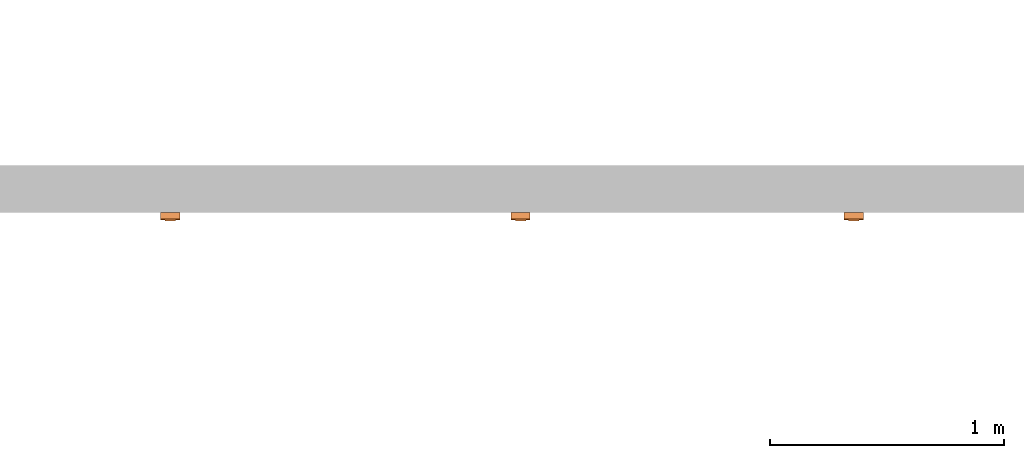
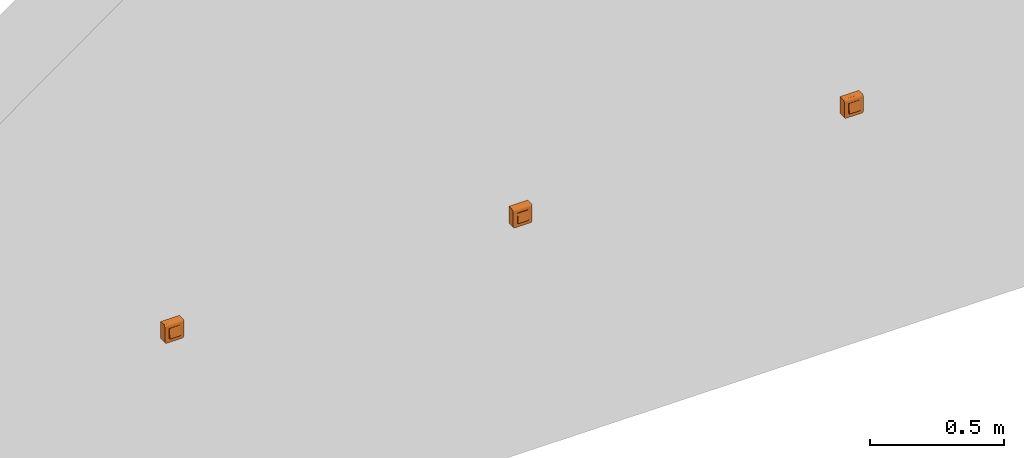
# One storey, part 132 of 197: 3 proxies.
"""IFC2X3 building model written with IfcOpenShell, lengths in metres."""

from ifc_helpers import new_model, entity, si_unit, converted_unit, direction, frame, origin, place, context, subcontext, project, spatial, faceted_brep, source, transform, mapped, material, material_list, type_object, type_shapes, element, save


model = new_model("IFC2X3")

# Units and contexts
model_context = context("Model", 3, precision=1e-05, world=origin(), true_north=direction((6.123031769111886e-17, 1.0)))
body_context = subcontext(model_context, "Body", "Model", "MODEL_VIEW")
ifc_project = project(units=[si_unit("LENGTHUNIT", "METRE"), converted_unit("PLANEANGLEUNIT", "DEGREE", entity("IfcPlaneAngleMeasure", 0.017453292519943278), si_unit("PLANEANGLEUNIT", "RADIAN"), dimensions=[0, 0, 0, 0, 0, 0, 0]), si_unit("AREAUNIT", "SQUARE_METRE")], contexts=[model_context])

# Site, building, storey
site_placement = place(None, origin())
site = spatial("IfcSite", under=ifc_project, at=site_placement, Name="Default", CompositionType="ELEMENT")
building_placement = place(site_placement, origin())
building = spatial("IfcBuilding", under=site, at=building_placement, CompositionType="ELEMENT")
storey_placement = place(building_placement, origin())
storey = spatial("IfcBuildingStorey", under=building, at=storey_placement, Name="Niveau 0", CompositionType="ELEMENT", Elevation=0.0)

# Proxies
ifc_material_1 = material(Name="BETCE-DOITGT-BLANC")
ifc_material_2 = material(Name="BETCE-CADRE-BLANC")
ifc_material_3 = material(Name="BETCE-ENJOLIVEUR-BLANC")
ifc_material_list = material_list([ifc_material_1, ifc_material_2, ifc_material_3])
building_element_proxy_type_1 = type_object("IfcBuildingElementProxyType", Name="Interrupteur double saillie:Simple allumage+Bouton poussoir", PredefinedType="NOTDEFINED", material=ifc_material_list)
shared_shape_1 = source(origin(), body_context, "Body", "Brep", [
    faceted_brep([(0.0, -0.033499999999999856, 0.022499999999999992), (0.0, -0.03799999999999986, -0.022500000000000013), (0.022499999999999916, -0.037999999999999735, -0.022500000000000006), (0.022499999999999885, -0.03349999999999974, 0.022499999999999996), (0.0, -0.02299999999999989, -0.022500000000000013), (0.0, -0.02299999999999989, 0.022499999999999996), (0.022499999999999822, -0.02299999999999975, 0.022499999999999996), (0.022499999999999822, -0.02299999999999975, -0.022500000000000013)], [[[0, 1, 2, 3]], [[4, 5, 6, 7]], [[5, 4, 1, 0]], [[6, 5, 0, 3]], [[7, 6, 3, 2]], [[4, 7, 2, 1]]]),
    faceted_brep([(0.04099999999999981, -0.023, 0.04092306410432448), (-0.04100000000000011, -0.023000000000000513, 0.04092306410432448), (-0.04100000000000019, -0.023000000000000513, -0.03299999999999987), (-0.040727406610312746, -0.023000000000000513, -0.03507055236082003), (-0.039928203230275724, -0.023000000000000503, -0.03699999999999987), (-0.038656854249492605, -0.0230000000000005, -0.038656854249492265), (-0.037000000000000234, -0.023000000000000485, -0.03992820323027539), (-0.0350705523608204, -0.023000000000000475, -0.04072740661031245), (-0.03300000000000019, -0.02300000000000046, -0.040999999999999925), (0.032999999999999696, -0.02300000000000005, -0.040999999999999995), (0.03507055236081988, -0.023000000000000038, -0.04072740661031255), (0.03699999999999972, -0.023000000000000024, -0.03992820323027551), (0.0386568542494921, -0.023000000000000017, -0.0386568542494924), (0.03992820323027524, -0.023000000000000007, -0.037000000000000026), (0.040727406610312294, -0.023000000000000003, -0.035070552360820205), (0.04099999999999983, -0.023, -0.032999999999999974), (-0.041000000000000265, 0.0, -0.03299999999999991), (-0.04100000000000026, 0.0, 0.04092306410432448), (0.04099999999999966, 0.0, 0.04092306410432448), (0.04099999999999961, 0.0, -0.03299999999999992), (0.04072740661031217, 0.0, -0.0350705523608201), (0.03992820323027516, 0.0, -0.036999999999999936), (0.038656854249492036, 0.0, -0.038656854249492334), (0.03699999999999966, 0.0, -0.039928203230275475), (0.03507055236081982, 0.0, -0.040727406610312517), (0.032999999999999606, 0.0, -0.04099999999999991), (-0.033000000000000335, 0.0, -0.040999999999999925), (-0.035070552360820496, 0.0, -0.04072740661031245), (-0.03700000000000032, 0.0, -0.039928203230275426), (-0.0386568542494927, 0.0, -0.0386568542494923), (-0.03992820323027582, 0.0, -0.036999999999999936), (-0.04072740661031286, 0.0, -0.035070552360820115)], [[[0, 1, 2, 3, 4, 5, 6, 7, 8, 9, 10, 11, 12, 13, 14, 15]], [[16, 17, 18, 19, 20, 21, 22, 23, 24, 25, 26, 27, 28, 29, 30, 31]], [[2, 1, 17, 16]], [[9, 8, 26, 25]], [[0, 15, 19, 18]], [[1, 0, 18, 17]], [[26, 8, 7, 27]], [[27, 7, 6, 28]], [[28, 6, 5, 29]], [[30, 4, 3, 31]], [[31, 3, 2, 16]], [[29, 5, 4, 30]], [[20, 19, 15, 14]], [[21, 20, 14, 13]], [[22, 21, 13, 12]], [[23, 22, 12, 11]], [[24, 23, 11, 10]], [[25, 24, 10, 9]]]),
    faceted_brep([(-0.022500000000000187, -0.02299999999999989, -0.022500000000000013), (-0.022500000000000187, -0.02299999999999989, 0.022499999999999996), (0.0, -0.02299999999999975, 0.022499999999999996), (0.0, -0.02299999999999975, -0.022500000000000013), (-0.022500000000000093, -0.037999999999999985, -0.022500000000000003), (-0.02250000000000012, -0.03349999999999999, 0.022499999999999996), (0.0, -0.03349999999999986, 0.022499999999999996), (0.0, -0.037999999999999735, -0.022500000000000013)], [[[0, 1, 2, 3]], [[1, 0, 4, 5]], [[2, 1, 5, 6]], [[3, 2, 6, 7]], [[0, 3, 7, 4]], [[5, 4, 7, 6]]]),
    faceted_brep([(0.04099999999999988, -0.03199999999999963, -0.03299999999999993), (0.04099999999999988, -0.03199999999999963, 0.0319999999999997), (0.022499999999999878, -0.031999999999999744, -0.022500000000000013), (0.032999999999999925, -0.03199999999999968, -0.040999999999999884), (0.03507055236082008, -0.031999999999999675, -0.040727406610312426), (0.040727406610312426, -0.03199999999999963, -0.03507055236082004), (0.02249999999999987, -0.031999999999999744, 0.022499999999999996), (-0.022500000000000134, -0.03200000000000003, 0.022499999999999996), (-0.04100000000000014, -0.03200000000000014, 0.0319999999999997), (-0.022500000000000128, -0.03200000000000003, -0.022500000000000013), (-0.04100000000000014, -0.03200000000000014, -0.03299999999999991), (-0.03300000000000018, -0.03200000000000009, -0.04099999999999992), (-0.03507055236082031, -0.032000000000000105, -0.04072740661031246), (-0.040727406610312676, -0.03200000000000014, -0.03507055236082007), (-0.03700000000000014, -0.03200000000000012, -0.03992820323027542), (-0.039928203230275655, -0.03200000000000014, -0.036999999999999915), (-0.038656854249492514, -0.032000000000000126, -0.03865685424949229), (0.036999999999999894, -0.03199999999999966, -0.039928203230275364), (0.03992820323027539, -0.03199999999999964, -0.03699999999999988), (0.038656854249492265, -0.03199999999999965, -0.038656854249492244), (-0.04100000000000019, -0.02300000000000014, -0.03299999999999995), (-0.041000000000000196, -0.02300000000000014, 0.041000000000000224), (-0.02250000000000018, -0.023000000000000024, 0.022499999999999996), (-0.02250000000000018, -0.023000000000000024, -0.022500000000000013), (-0.03300000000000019, -0.023000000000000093, -0.04099999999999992), (-0.04072740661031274, -0.02300000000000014, -0.03507055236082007), (0.02249999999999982, -0.022999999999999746, 0.022499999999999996), (0.040999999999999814, -0.022999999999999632, 0.041000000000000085), (0.04099999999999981, -0.022999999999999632, -0.032999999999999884), (0.022499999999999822, -0.022999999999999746, -0.022500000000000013), (0.03299999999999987, -0.022999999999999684, -0.040999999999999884), (0.040727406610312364, -0.022999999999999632, -0.03507055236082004), (0.035070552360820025, -0.02299999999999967, -0.040727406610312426), (0.039928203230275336, -0.02299999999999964, -0.03699999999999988), (0.03699999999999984, -0.022999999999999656, -0.039928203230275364), (0.03865685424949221, -0.022999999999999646, -0.038656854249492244), (-0.035070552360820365, -0.023000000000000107, -0.04072740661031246), (-0.039928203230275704, -0.023000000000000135, -0.036999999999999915), (-0.03700000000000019, -0.023000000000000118, -0.03992820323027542), (-0.03865685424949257, -0.023000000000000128, -0.03865685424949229), (0.040999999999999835, -0.025329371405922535, 0.04069333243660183), (0.04099999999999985, -0.027499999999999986, 0.039794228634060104), (0.040999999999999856, -0.029363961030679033, 0.038363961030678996), (0.04099999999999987, -0.030794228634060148, 0.03649999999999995), (0.04099999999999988, -0.03169333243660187, 0.03432937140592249), (-0.04100000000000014, -0.03169333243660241, 0.034329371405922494), (-0.04100000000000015, -0.03079422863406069, 0.03649999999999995), (-0.041000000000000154, -0.02936396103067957, 0.03836396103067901), (-0.04100000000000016, -0.027500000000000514, 0.039794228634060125), (-0.041000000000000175, -0.02532937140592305, 0.04069333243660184)], [[[0, 1, 2]], [[3, 0, 2]], [[0, 3, 4]], [[5, 0, 4]], [[2, 1, 6]], [[1, 7, 6]], [[7, 1, 8]], [[9, 7, 8]], [[10, 9, 8]], [[11, 9, 10]], [[11, 10, 12]], [[12, 10, 13]], [[14, 12, 13]], [[15, 14, 13]], [[14, 15, 16]], [[9, 11, 3]], [[2, 9, 3]], [[5, 4, 17]], [[5, 17, 18]], [[19, 18, 17]], [[20, 21, 22]], [[23, 20, 22]], [[24, 20, 23]], [[25, 20, 24]], [[21, 26, 22]], [[26, 21, 27]], [[28, 26, 27]], [[29, 26, 28]], [[30, 29, 28]], [[30, 28, 31]], [[30, 31, 32]], [[31, 33, 32]], [[33, 34, 32]], [[34, 33, 35]], [[29, 30, 24]], [[25, 24, 36]], [[23, 29, 24]], [[37, 25, 36]], [[37, 36, 38]], [[39, 37, 38]], [[1, 0, 28, 27, 40, 41, 42, 43, 44]], [[31, 28, 0, 5]], [[33, 31, 5, 18]], [[35, 33, 18, 19]], [[34, 35, 19, 17]], [[32, 34, 17, 4]], [[30, 32, 4, 3]], [[24, 30, 3, 11]], [[36, 24, 11, 12]], [[38, 36, 12, 14]], [[39, 38, 14, 16]], [[37, 39, 16, 15]], [[25, 37, 15, 13]], [[20, 25, 13, 10]], [[21, 20, 10, 8, 45, 46, 47, 48, 49]], [[44, 43, 46, 45]], [[1, 44, 45, 8]], [[43, 42, 47, 46]], [[49, 48, 41, 40]], [[21, 49, 40, 27]], [[42, 41, 48, 47]], [[23, 22, 7, 9]], [[29, 23, 9, 2]], [[26, 29, 2, 6]], [[22, 26, 6, 7]]]),
])
type_shapes(building_element_proxy_type_1, [shared_shape_1])
proxy_1_placement = place(storey_placement, frame((-410.2154485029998, 116.01635778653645, 1.1)))
element("IfcBuildingElementProxy", 1, at=proxy_1_placement, inside=storey, type_object=building_element_proxy_type_1, material=ifc_material_list, Name="Interrupteur double saillie:Simple allumage+Bouton poussoir", ObjectType="Interrupteur double saillie:Simple allumage+Bouton poussoir", context=body_context, shape_type="MappedRepresentation", body=[
    mapped(shared_shape_1, transform((0.0, 0.0, 0.0), scale=1.0)),
])
building_element_proxy_type_2 = type_object("IfcBuildingElementProxyType", Name="Interrupteur double saillie:Simple allumage+Va et vient", PredefinedType="NOTDEFINED", material=ifc_material_list)
shared_shape_2 = source(origin(), body_context, "Body", "Brep", [
    faceted_brep([(0.0, -0.033499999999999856, 0.022499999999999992), (0.0, -0.03799999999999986, -0.022500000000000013), (0.022499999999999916, -0.037999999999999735, -0.022500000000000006), (0.022499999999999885, -0.03349999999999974, 0.022499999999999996), (0.0, -0.02299999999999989, -0.022500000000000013), (0.0, -0.02299999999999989, 0.022499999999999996), (0.022499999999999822, -0.02299999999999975, 0.022499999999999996), (0.022499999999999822, -0.02299999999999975, -0.022500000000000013)], [[[0, 1, 2, 3]], [[4, 5, 6, 7]], [[5, 4, 1, 0]], [[6, 5, 0, 3]], [[7, 6, 3, 2]], [[4, 7, 2, 1]]]),
    faceted_brep([(0.04099999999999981, -0.023, 0.04092306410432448), (-0.04100000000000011, -0.023000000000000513, 0.04092306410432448), (-0.04100000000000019, -0.023000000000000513, -0.03299999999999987), (-0.040727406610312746, -0.023000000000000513, -0.03507055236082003), (-0.039928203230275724, -0.023000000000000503, -0.03699999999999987), (-0.038656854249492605, -0.0230000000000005, -0.038656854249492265), (-0.037000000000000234, -0.023000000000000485, -0.03992820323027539), (-0.0350705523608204, -0.023000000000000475, -0.04072740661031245), (-0.03300000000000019, -0.02300000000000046, -0.040999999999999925), (0.032999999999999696, -0.02300000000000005, -0.040999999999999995), (0.03507055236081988, -0.023000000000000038, -0.04072740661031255), (0.03699999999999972, -0.023000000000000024, -0.03992820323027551), (0.0386568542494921, -0.023000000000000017, -0.0386568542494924), (0.03992820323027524, -0.023000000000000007, -0.037000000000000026), (0.040727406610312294, -0.023000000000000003, -0.035070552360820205), (0.04099999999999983, -0.023, -0.032999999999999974), (-0.041000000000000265, 0.0, -0.03299999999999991), (-0.04100000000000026, 0.0, 0.04092306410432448), (0.04099999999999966, 0.0, 0.04092306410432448), (0.04099999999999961, 0.0, -0.03299999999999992), (0.04072740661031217, 0.0, -0.0350705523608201), (0.03992820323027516, 0.0, -0.036999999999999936), (0.038656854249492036, 0.0, -0.038656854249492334), (0.03699999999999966, 0.0, -0.039928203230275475), (0.03507055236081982, 0.0, -0.040727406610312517), (0.032999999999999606, 0.0, -0.04099999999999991), (-0.033000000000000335, 0.0, -0.040999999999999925), (-0.035070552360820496, 0.0, -0.04072740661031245), (-0.03700000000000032, 0.0, -0.039928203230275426), (-0.0386568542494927, 0.0, -0.0386568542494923), (-0.03992820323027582, 0.0, -0.036999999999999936), (-0.04072740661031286, 0.0, -0.035070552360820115)], [[[0, 1, 2, 3, 4, 5, 6, 7, 8, 9, 10, 11, 12, 13, 14, 15]], [[16, 17, 18, 19, 20, 21, 22, 23, 24, 25, 26, 27, 28, 29, 30, 31]], [[2, 1, 17, 16]], [[9, 8, 26, 25]], [[0, 15, 19, 18]], [[1, 0, 18, 17]], [[26, 8, 7, 27]], [[27, 7, 6, 28]], [[28, 6, 5, 29]], [[30, 4, 3, 31]], [[31, 3, 2, 16]], [[29, 5, 4, 30]], [[20, 19, 15, 14]], [[21, 20, 14, 13]], [[22, 21, 13, 12]], [[23, 22, 12, 11]], [[24, 23, 11, 10]], [[25, 24, 10, 9]]]),
    faceted_brep([(-0.022500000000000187, -0.02299999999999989, -0.022500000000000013), (-0.022500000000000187, -0.02299999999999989, 0.022499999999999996), (0.0, -0.02299999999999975, 0.022499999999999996), (0.0, -0.02299999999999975, -0.022500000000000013), (-0.022500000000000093, -0.037999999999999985, -0.022500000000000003), (-0.02250000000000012, -0.03349999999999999, 0.022499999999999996), (0.0, -0.03349999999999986, 0.022499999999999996), (0.0, -0.037999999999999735, -0.022500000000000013)], [[[0, 1, 2, 3]], [[1, 0, 4, 5]], [[2, 1, 5, 6]], [[3, 2, 6, 7]], [[0, 3, 7, 4]], [[5, 4, 7, 6]]]),
    faceted_brep([(0.04099999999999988, -0.03199999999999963, -0.03299999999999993), (0.04099999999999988, -0.03199999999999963, 0.0319999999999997), (0.022499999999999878, -0.031999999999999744, -0.022500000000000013), (0.032999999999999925, -0.03199999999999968, -0.040999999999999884), (0.03507055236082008, -0.031999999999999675, -0.040727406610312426), (0.040727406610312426, -0.03199999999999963, -0.03507055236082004), (0.02249999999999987, -0.031999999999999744, 0.022499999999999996), (-0.022500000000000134, -0.03200000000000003, 0.022499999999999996), (-0.04100000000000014, -0.03200000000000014, 0.0319999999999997), (-0.022500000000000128, -0.03200000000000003, -0.022500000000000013), (-0.04100000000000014, -0.03200000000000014, -0.03299999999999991), (-0.03300000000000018, -0.03200000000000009, -0.04099999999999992), (-0.03507055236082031, -0.032000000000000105, -0.04072740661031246), (-0.040727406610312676, -0.03200000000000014, -0.03507055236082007), (-0.03700000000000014, -0.03200000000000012, -0.03992820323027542), (-0.039928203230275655, -0.03200000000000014, -0.036999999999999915), (-0.038656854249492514, -0.032000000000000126, -0.03865685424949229), (0.036999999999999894, -0.03199999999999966, -0.039928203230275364), (0.03992820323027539, -0.03199999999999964, -0.03699999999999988), (0.038656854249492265, -0.03199999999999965, -0.038656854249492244), (-0.04100000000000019, -0.02300000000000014, -0.03299999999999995), (-0.041000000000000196, -0.02300000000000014, 0.041000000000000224), (-0.02250000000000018, -0.023000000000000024, 0.022499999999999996), (-0.02250000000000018, -0.023000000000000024, -0.022500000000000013), (-0.03300000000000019, -0.023000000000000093, -0.04099999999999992), (-0.04072740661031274, -0.02300000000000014, -0.03507055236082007), (0.02249999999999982, -0.022999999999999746, 0.022499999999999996), (0.040999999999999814, -0.022999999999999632, 0.041000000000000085), (0.04099999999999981, -0.022999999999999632, -0.032999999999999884), (0.022499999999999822, -0.022999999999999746, -0.022500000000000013), (0.03299999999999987, -0.022999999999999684, -0.040999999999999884), (0.040727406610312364, -0.022999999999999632, -0.03507055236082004), (0.035070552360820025, -0.02299999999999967, -0.040727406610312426), (0.039928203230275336, -0.02299999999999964, -0.03699999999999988), (0.03699999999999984, -0.022999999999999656, -0.039928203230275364), (0.03865685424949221, -0.022999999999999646, -0.038656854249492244), (-0.035070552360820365, -0.023000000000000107, -0.04072740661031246), (-0.039928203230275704, -0.023000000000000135, -0.036999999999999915), (-0.03700000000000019, -0.023000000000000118, -0.03992820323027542), (-0.03865685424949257, -0.023000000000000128, -0.03865685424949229), (0.040999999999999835, -0.025329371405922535, 0.04069333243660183), (0.04099999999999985, -0.027499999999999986, 0.039794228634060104), (0.040999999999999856, -0.029363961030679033, 0.038363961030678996), (0.04099999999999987, -0.030794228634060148, 0.03649999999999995), (0.04099999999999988, -0.03169333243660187, 0.03432937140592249), (-0.04100000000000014, -0.03169333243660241, 0.034329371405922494), (-0.04100000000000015, -0.03079422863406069, 0.03649999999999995), (-0.041000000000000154, -0.02936396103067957, 0.03836396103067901), (-0.04100000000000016, -0.027500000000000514, 0.039794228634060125), (-0.041000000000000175, -0.02532937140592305, 0.04069333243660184)], [[[0, 1, 2]], [[3, 0, 2]], [[0, 3, 4]], [[5, 0, 4]], [[2, 1, 6]], [[1, 7, 6]], [[7, 1, 8]], [[9, 7, 8]], [[10, 9, 8]], [[11, 9, 10]], [[11, 10, 12]], [[12, 10, 13]], [[14, 12, 13]], [[15, 14, 13]], [[14, 15, 16]], [[9, 11, 3]], [[2, 9, 3]], [[5, 4, 17]], [[5, 17, 18]], [[19, 18, 17]], [[20, 21, 22]], [[23, 20, 22]], [[24, 20, 23]], [[25, 20, 24]], [[21, 26, 22]], [[26, 21, 27]], [[28, 26, 27]], [[29, 26, 28]], [[30, 29, 28]], [[30, 28, 31]], [[30, 31, 32]], [[31, 33, 32]], [[33, 34, 32]], [[34, 33, 35]], [[29, 30, 24]], [[25, 24, 36]], [[23, 29, 24]], [[37, 25, 36]], [[37, 36, 38]], [[39, 37, 38]], [[1, 0, 28, 27, 40, 41, 42, 43, 44]], [[31, 28, 0, 5]], [[33, 31, 5, 18]], [[35, 33, 18, 19]], [[34, 35, 19, 17]], [[32, 34, 17, 4]], [[30, 32, 4, 3]], [[24, 30, 3, 11]], [[36, 24, 11, 12]], [[38, 36, 12, 14]], [[39, 38, 14, 16]], [[37, 39, 16, 15]], [[25, 37, 15, 13]], [[20, 25, 13, 10]], [[21, 20, 10, 8, 45, 46, 47, 48, 49]], [[44, 43, 46, 45]], [[1, 44, 45, 8]], [[43, 42, 47, 46]], [[49, 48, 41, 40]], [[21, 49, 40, 27]], [[42, 41, 48, 47]], [[23, 22, 7, 9]], [[29, 23, 9, 2]], [[26, 29, 2, 6]], [[22, 26, 6, 7]]]),
])
type_shapes(building_element_proxy_type_2, [shared_shape_2])
proxy_2_placement = place(storey_placement, frame((-408.7194485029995, 116.01635778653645, 1.1)))
element("IfcBuildingElementProxy", 2, at=proxy_2_placement, inside=storey, type_object=building_element_proxy_type_2, material=ifc_material_list, Name="Interrupteur double saillie:Simple allumage+Va et vient", ObjectType="Interrupteur double saillie:Simple allumage+Va et vient", context=body_context, shape_type="MappedRepresentation", body=[
    mapped(shared_shape_2, transform((0.0, 0.0, 0.0), scale=1.0)),
])
building_element_proxy_type_3 = type_object("IfcBuildingElementProxyType", Name="Interrupteur double saillie:Va et vient+Bouton poussoir", PredefinedType="NOTDEFINED", material=ifc_material_list)
shared_shape_3 = source(origin(), body_context, "Body", "Brep", [
    faceted_brep([(0.0, -0.033499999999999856, 0.022499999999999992), (0.0, -0.03799999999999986, -0.022500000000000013), (0.022499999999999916, -0.037999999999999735, -0.022500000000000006), (0.022499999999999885, -0.03349999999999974, 0.022499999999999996), (0.0, -0.02299999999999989, -0.022500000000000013), (0.0, -0.02299999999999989, 0.022499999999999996), (0.022499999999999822, -0.02299999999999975, 0.022499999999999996), (0.022499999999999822, -0.02299999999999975, -0.022500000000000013)], [[[0, 1, 2, 3]], [[4, 5, 6, 7]], [[5, 4, 1, 0]], [[6, 5, 0, 3]], [[7, 6, 3, 2]], [[4, 7, 2, 1]]]),
    faceted_brep([(0.04099999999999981, -0.023, 0.04092306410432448), (-0.04100000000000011, -0.023000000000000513, 0.04092306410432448), (-0.04100000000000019, -0.023000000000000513, -0.03299999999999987), (-0.040727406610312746, -0.023000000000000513, -0.03507055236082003), (-0.039928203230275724, -0.023000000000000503, -0.03699999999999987), (-0.038656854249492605, -0.0230000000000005, -0.038656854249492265), (-0.037000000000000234, -0.023000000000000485, -0.03992820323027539), (-0.0350705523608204, -0.023000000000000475, -0.04072740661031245), (-0.03300000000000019, -0.02300000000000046, -0.040999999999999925), (0.032999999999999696, -0.02300000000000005, -0.040999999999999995), (0.03507055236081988, -0.023000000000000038, -0.04072740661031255), (0.03699999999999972, -0.023000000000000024, -0.03992820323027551), (0.0386568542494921, -0.023000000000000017, -0.0386568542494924), (0.03992820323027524, -0.023000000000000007, -0.037000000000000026), (0.040727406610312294, -0.023000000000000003, -0.035070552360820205), (0.04099999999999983, -0.023, -0.032999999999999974), (-0.041000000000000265, 0.0, -0.03299999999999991), (-0.04100000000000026, 0.0, 0.04092306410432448), (0.04099999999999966, 0.0, 0.04092306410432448), (0.04099999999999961, 0.0, -0.03299999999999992), (0.04072740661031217, 0.0, -0.0350705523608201), (0.03992820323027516, 0.0, -0.036999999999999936), (0.038656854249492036, 0.0, -0.038656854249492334), (0.03699999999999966, 0.0, -0.039928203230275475), (0.03507055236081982, 0.0, -0.040727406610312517), (0.032999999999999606, 0.0, -0.04099999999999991), (-0.033000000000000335, 0.0, -0.040999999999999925), (-0.035070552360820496, 0.0, -0.04072740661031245), (-0.03700000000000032, 0.0, -0.039928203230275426), (-0.0386568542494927, 0.0, -0.0386568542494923), (-0.03992820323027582, 0.0, -0.036999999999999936), (-0.04072740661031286, 0.0, -0.035070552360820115)], [[[0, 1, 2, 3, 4, 5, 6, 7, 8, 9, 10, 11, 12, 13, 14, 15]], [[16, 17, 18, 19, 20, 21, 22, 23, 24, 25, 26, 27, 28, 29, 30, 31]], [[2, 1, 17, 16]], [[9, 8, 26, 25]], [[0, 15, 19, 18]], [[1, 0, 18, 17]], [[26, 8, 7, 27]], [[27, 7, 6, 28]], [[28, 6, 5, 29]], [[30, 4, 3, 31]], [[31, 3, 2, 16]], [[29, 5, 4, 30]], [[20, 19, 15, 14]], [[21, 20, 14, 13]], [[22, 21, 13, 12]], [[23, 22, 12, 11]], [[24, 23, 11, 10]], [[25, 24, 10, 9]]]),
    faceted_brep([(-0.022500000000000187, -0.02299999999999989, -0.022500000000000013), (-0.022500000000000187, -0.02299999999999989, 0.022499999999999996), (0.0, -0.02299999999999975, 0.022499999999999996), (0.0, -0.02299999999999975, -0.022500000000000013), (-0.022500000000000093, -0.037999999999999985, -0.022500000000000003), (-0.02250000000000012, -0.03349999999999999, 0.022499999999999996), (0.0, -0.03349999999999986, 0.022499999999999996), (0.0, -0.037999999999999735, -0.022500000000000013)], [[[0, 1, 2, 3]], [[1, 0, 4, 5]], [[2, 1, 5, 6]], [[3, 2, 6, 7]], [[0, 3, 7, 4]], [[5, 4, 7, 6]]]),
    faceted_brep([(0.04099999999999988, -0.03199999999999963, -0.03299999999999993), (0.04099999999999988, -0.03199999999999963, 0.0319999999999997), (0.022499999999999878, -0.031999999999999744, -0.022500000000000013), (0.032999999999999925, -0.03199999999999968, -0.040999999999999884), (0.03507055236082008, -0.031999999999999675, -0.040727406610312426), (0.040727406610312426, -0.03199999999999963, -0.03507055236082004), (0.02249999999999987, -0.031999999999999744, 0.022499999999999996), (-0.022500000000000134, -0.03200000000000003, 0.022499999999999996), (-0.04100000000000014, -0.03200000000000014, 0.0319999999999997), (-0.022500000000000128, -0.03200000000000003, -0.022500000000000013), (-0.04100000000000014, -0.03200000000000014, -0.03299999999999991), (-0.03300000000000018, -0.03200000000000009, -0.04099999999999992), (-0.03507055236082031, -0.032000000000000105, -0.04072740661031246), (-0.040727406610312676, -0.03200000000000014, -0.03507055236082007), (-0.03700000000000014, -0.03200000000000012, -0.03992820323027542), (-0.039928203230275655, -0.03200000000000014, -0.036999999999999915), (-0.038656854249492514, -0.032000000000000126, -0.03865685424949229), (0.036999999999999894, -0.03199999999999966, -0.039928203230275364), (0.03992820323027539, -0.03199999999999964, -0.03699999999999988), (0.038656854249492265, -0.03199999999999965, -0.038656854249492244), (-0.04100000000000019, -0.02300000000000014, -0.03299999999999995), (-0.041000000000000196, -0.02300000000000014, 0.041000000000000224), (-0.02250000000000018, -0.023000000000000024, 0.022499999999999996), (-0.02250000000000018, -0.023000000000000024, -0.022500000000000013), (-0.03300000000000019, -0.023000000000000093, -0.04099999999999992), (-0.04072740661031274, -0.02300000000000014, -0.03507055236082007), (0.02249999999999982, -0.022999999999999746, 0.022499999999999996), (0.040999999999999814, -0.022999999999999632, 0.041000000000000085), (0.04099999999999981, -0.022999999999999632, -0.032999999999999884), (0.022499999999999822, -0.022999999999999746, -0.022500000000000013), (0.03299999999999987, -0.022999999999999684, -0.040999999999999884), (0.040727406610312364, -0.022999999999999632, -0.03507055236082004), (0.035070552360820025, -0.02299999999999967, -0.040727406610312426), (0.039928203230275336, -0.02299999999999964, -0.03699999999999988), (0.03699999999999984, -0.022999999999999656, -0.039928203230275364), (0.03865685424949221, -0.022999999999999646, -0.038656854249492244), (-0.035070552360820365, -0.023000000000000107, -0.04072740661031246), (-0.039928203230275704, -0.023000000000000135, -0.036999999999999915), (-0.03700000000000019, -0.023000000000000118, -0.03992820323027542), (-0.03865685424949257, -0.023000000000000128, -0.03865685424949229), (0.040999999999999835, -0.025329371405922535, 0.04069333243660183), (0.04099999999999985, -0.027499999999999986, 0.039794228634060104), (0.040999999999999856, -0.029363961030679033, 0.038363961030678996), (0.04099999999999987, -0.030794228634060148, 0.03649999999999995), (0.04099999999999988, -0.03169333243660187, 0.03432937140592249), (-0.04100000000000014, -0.03169333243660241, 0.034329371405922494), (-0.04100000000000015, -0.03079422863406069, 0.03649999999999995), (-0.041000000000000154, -0.02936396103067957, 0.03836396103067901), (-0.04100000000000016, -0.027500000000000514, 0.039794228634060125), (-0.041000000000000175, -0.02532937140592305, 0.04069333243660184)], [[[0, 1, 2]], [[3, 0, 2]], [[0, 3, 4]], [[5, 0, 4]], [[2, 1, 6]], [[1, 7, 6]], [[7, 1, 8]], [[9, 7, 8]], [[10, 9, 8]], [[11, 9, 10]], [[11, 10, 12]], [[12, 10, 13]], [[14, 12, 13]], [[15, 14, 13]], [[14, 15, 16]], [[9, 11, 3]], [[2, 9, 3]], [[5, 4, 17]], [[5, 17, 18]], [[19, 18, 17]], [[20, 21, 22]], [[23, 20, 22]], [[24, 20, 23]], [[25, 20, 24]], [[21, 26, 22]], [[26, 21, 27]], [[28, 26, 27]], [[29, 26, 28]], [[30, 29, 28]], [[30, 28, 31]], [[30, 31, 32]], [[31, 33, 32]], [[33, 34, 32]], [[34, 33, 35]], [[29, 30, 24]], [[25, 24, 36]], [[23, 29, 24]], [[37, 25, 36]], [[37, 36, 38]], [[39, 37, 38]], [[1, 0, 28, 27, 40, 41, 42, 43, 44]], [[31, 28, 0, 5]], [[33, 31, 5, 18]], [[35, 33, 18, 19]], [[34, 35, 19, 17]], [[32, 34, 17, 4]], [[30, 32, 4, 3]], [[24, 30, 3, 11]], [[36, 24, 11, 12]], [[38, 36, 12, 14]], [[39, 38, 14, 16]], [[37, 39, 16, 15]], [[25, 37, 15, 13]], [[20, 25, 13, 10]], [[21, 20, 10, 8, 45, 46, 47, 48, 49]], [[44, 43, 46, 45]], [[1, 44, 45, 8]], [[43, 42, 47, 46]], [[49, 48, 41, 40]], [[21, 49, 40, 27]], [[42, 41, 48, 47]], [[23, 22, 7, 9]], [[29, 23, 9, 2]], [[26, 29, 2, 6]], [[22, 26, 6, 7]]]),
])
type_shapes(building_element_proxy_type_3, [shared_shape_3])
proxy_3_placement = place(storey_placement, frame((-407.29644850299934, 116.01635778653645, 1.1)))
element("IfcBuildingElementProxy", 3, at=proxy_3_placement, inside=storey, type_object=building_element_proxy_type_3, material=ifc_material_list, Name="Interrupteur double saillie:Va et vient+Bouton poussoir", ObjectType="Interrupteur double saillie:Va et vient+Bouton poussoir", context=body_context, shape_type="MappedRepresentation", body=[
    mapped(shared_shape_3, transform((0.0, 0.0, 0.0), scale=1.0)),
])

save(model, "model.ifc")
